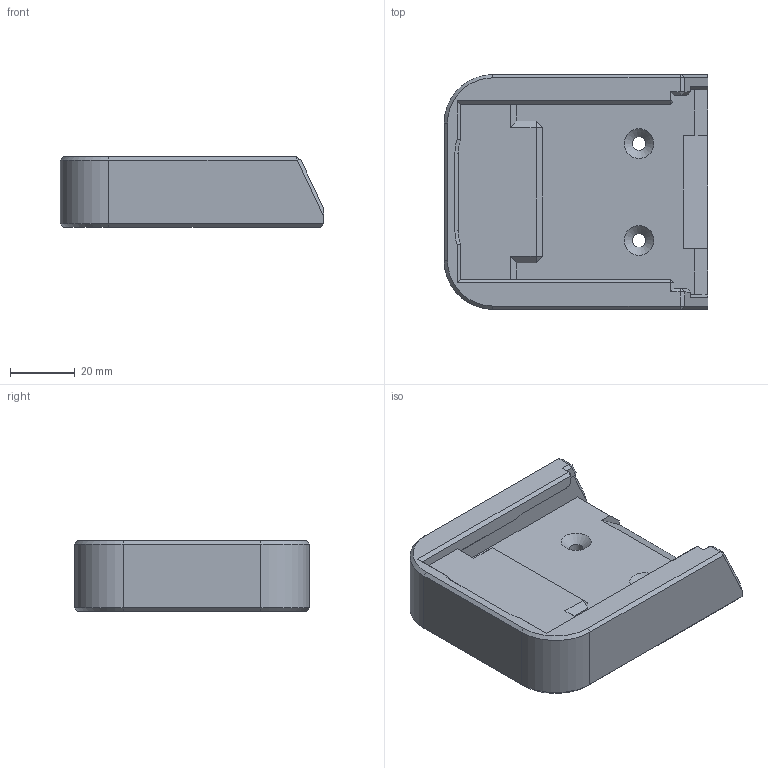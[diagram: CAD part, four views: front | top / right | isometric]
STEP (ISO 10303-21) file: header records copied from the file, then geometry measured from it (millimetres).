
FILE_DESCRIPTION(/* description */ (''),/* implementation_level */ '2;1');
FILE_NAME(/* name */ 'Makita Battery Holder (No Lock).step',/* time_stamp */ '2022-12-01T13:36:21+03:00',/* author */ (''),/* organization */ (''),/* preprocessor_version */ 'ST-DEVELOPER v19.2',/* originating_system */ 'Autodesk Translation Framework v11.17.0.187',/* authorisation */ '');
FILE_SCHEMA (('AUTOMOTIVE_DESIGN { 1 0 10303 214 3 1 1 }'));
Length unit declared in the file: millimetre
Products named in the file (1): Makita Battery Holder
Bounding box: 81.65 x 72.7 x 21.8 mm (x, y, z)
Volume: 71414.7 mm3; surface area: 20136.3 mm2
Topology: 1 solids, 1 shells, 110 faces, 264 edges, 156 vertices
Faces by surface type: plane 90, cone 12, cylinder 8
Full cylindrical faces by diameter (mm): 4.2 x2
Entity records: 3135 total; most frequent: CARTESIAN_POINT 555, ORIENTED_EDGE 528, DIRECTION 512, EDGE_CURVE 264, LINE 230, VECTOR 230, VERTEX_POINT 156, AXIS2_PLACEMENT_3D 141
